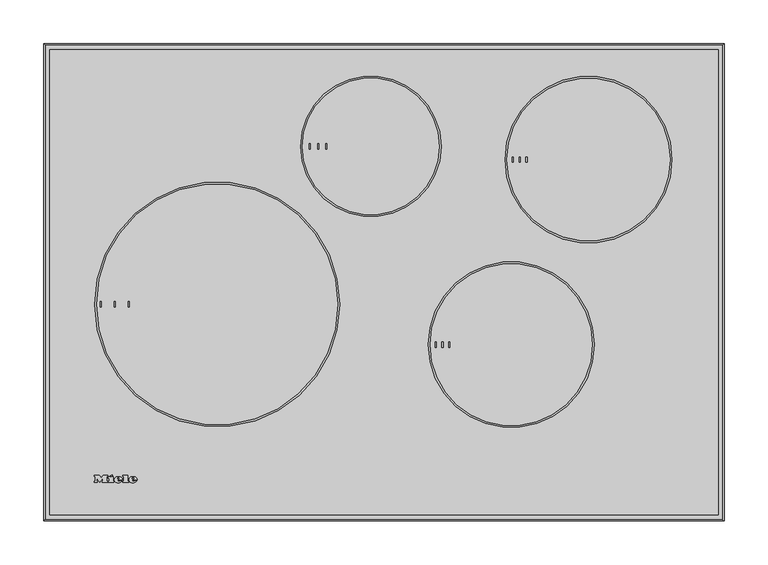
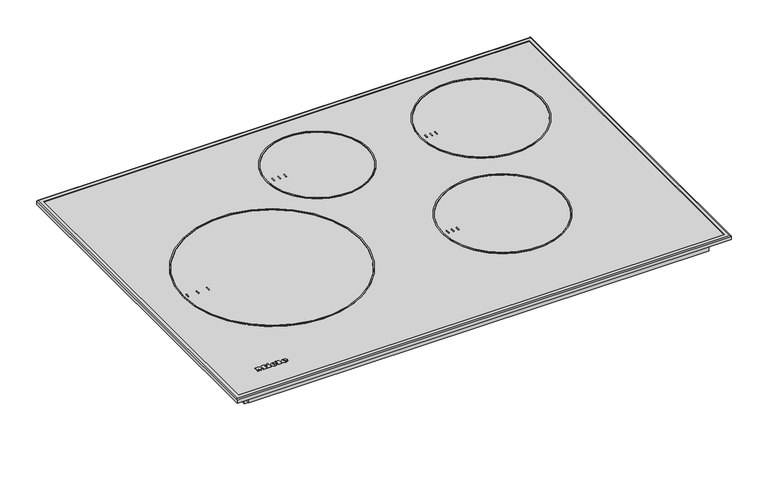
"""IFC4 building model written with IfcOpenShell, lengths in millimetres: proxy geometry, 12074200_USA_KM7730FR : 26773000_USA_12074200_KM7730FR."""

from ifc_helpers import new_model, si_unit, point, frame, frame_2d, origin, origin_with_axes, place, context, project, spatial, polyline, circle_curve, ellipse_curve, trimmed, segment, composite_curve, outline, extrude, source, transform, mapped, element, save
from ifc_brep_helpers import plane_surface, cylinder_surface, revolved_surface, extruded_surface, advanced_brep


def specialty_equipment_73e40a91(model_context):
    return source(origin(), model_context, "Body", "SolidModel", [
        extrude(outline(polyline([(231.5, 507.967223), (231.5, 412.967223), (327.5, 412.967223), (327.5, 84.0082872), (-327.5, 84.0082872), (-327.5, 507.967223), (231.5, 507.967223)])), frame((0.0, 0.0, -73.0), z_axis=(0.0, 0.0, 1.0), x_axis=(1.0, 0.0, 0.0)), (0.0, 0.0, 1.0), 55.0),
        extrude(outline(polyline([(360.5, 529.5), (360.5, 14.5), (-360.5, 14.5), (-360.5, 529.5), (360.5, 529.5)])), frame((0.0, 0.0, -18.0), z_axis=(0.0, 0.0, 1.0), x_axis=(1.0, 0.0, 0.0)), (0.0, 0.0, 1.0), 18.0),
        extrude(outline(polyline([(384.5, 541.0003766), (384.5, 2.9996234), (-384.5, 2.9996234), (-384.5, 541.0003766), (384.5, 541.0003766)])), origin_with_axes(), (0.0, 0.0, 1.0), 5.5),
        advanced_brep(
        [(386.100005, 542.600005, 5.6145786), (386.100005, 542.600005, 0.0), (386.100005, 1.399995, 0.0), (386.100005, 1.399995, 5.6145786), (380.546384, 537.046384, 7.0), (380.546384, 537.046384, 5.6145786), (380.546384, 6.953616, 5.6145786), (380.546384, 6.953616, 7.0), (387.5, 544.0, 5.5), (386.0, 542.5, 7.0), (386.0, 1.5, 7.0), (387.5, 0.0, 5.5), (387.5, 544.0, 0.0), (387.5, 0.0, 0.0), (-386.100005, 1.399995, 0.0), (-386.100005, 1.399995, 5.6145786), (-380.546384, 6.953616, 5.6145786), (-380.546384, 6.953616, 7.0), (-386.0, 1.5, 7.0), (-387.5, 0.0, 5.5), (-387.5, 0.0, 0.0), (-386.100005, 542.600005, 0.0), (-386.100005, 542.600005, 5.6145786), (-380.546384, 537.046384, 5.6145786), (-380.546384, 537.046384, 7.0), (-386.0, 542.5, 7.0), (-387.5, 544.0, 5.5), (-387.5, 544.0, 0.0)],
        [
            (0, 1),
            (1, 2),
            (2, 3),
            (3, 0),
            (4, 5),
            (5, 6),
            (6, 7),
            (7, 4),
            (8, 9, ellipse_curve(frame((386.0, 542.5, 5.5), z_axis=(0.7071067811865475, -0.7071067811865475, 0.0), x_axis=(0.7071067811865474, 0.7071067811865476, 0.0)), 2.1213203, 1.5)),
            (9, 10),
            (10, 11, ellipse_curve(frame((386.0, 1.5, 5.5), z_axis=(0.7071067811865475, 0.7071067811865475, 0.0), x_axis=(-0.7071067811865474, 0.7071067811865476, 0.0)), 2.1213203, 1.5)),
            (11, 8),
            (12, 8),
            (11, 13),
            (13, 12),
            (2, 14),
            (14, 15),
            (15, 3),
            (6, 16),
            (16, 17),
            (17, 7),
            (10, 18),
            (18, 19, ellipse_curve(frame((-386.0, 1.5, 5.5), z_axis=(0.7071067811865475, -0.7071067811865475, 0.0), x_axis=(0.7071067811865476, 0.7071067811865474, 0.0)), 2.1213203, 1.5)),
            (19, 11),
            (19, 20),
            (20, 13),
            (14, 21),
            (21, 22),
            (22, 15),
            (16, 23),
            (23, 24),
            (24, 17),
            (18, 25),
            (25, 26, ellipse_curve(frame((-386.0, 542.5, 5.5), z_axis=(-0.7071067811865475, -0.7071067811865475, 0.0), x_axis=(0.7071067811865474, -0.7071067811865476, 0.0)), 2.1213203, 1.5)),
            (26, 19),
            (26, 27),
            (27, 20),
            (21, 1),
            (0, 22),
            (5, 23),
            (4, 24),
            (9, 25),
            (8, 26),
            (12, 27),
        ],
        [
            plane_surface(frame((386.100005, 542.600005, 0.0), z_axis=(-1.0, 0.0, 0.0), x_axis=(0.0, -1.0, 0.0))),
            plane_surface(frame((380.546384, 537.046384, 5.6145786), z_axis=(-1.0, 0.0, 0.0), x_axis=(0.0, -1.0, 0.0))),
            cylinder_surface(frame((386.0, 544.0, 5.5), z_axis=(0.0, 1.0, 0.0), x_axis=(1.0, 0.0, 0.0)), 1.5),
            plane_surface(frame((387.5, 544.0, 5.5), z_axis=(1.0, 0.0, 0.0), x_axis=(0.0, -1.0, 0.0))),
            plane_surface(frame((386.100005, 1.399995, 0.0), z_axis=(0.0, 1.0, 0.0), x_axis=(-1.0, 0.0, 0.0))),
            plane_surface(frame((380.546384, 6.953616, 5.6145786), z_axis=(0.0, 1.0, 0.0), x_axis=(-1.0, 0.0, 0.0))),
            cylinder_surface(frame((387.5, 1.5, 5.5), z_axis=(1.0, 0.0, 0.0), x_axis=(0.0, -1.0, 0.0)), 1.5),
            plane_surface(frame((387.5, 0.0, 5.5), z_axis=(0.0, -1.0, 0.0), x_axis=(-1.0, 0.0, 0.0))),
            plane_surface(frame((-386.100005, 1.399995, 0.0), z_axis=(1.0, 0.0, 0.0), x_axis=(0.0, 1.0, 0.0))),
            plane_surface(frame((-380.546384, 6.953616, 5.6145786), z_axis=(1.0, 0.0, 0.0), x_axis=(0.0, 1.0, 0.0))),
            cylinder_surface(frame((-386.0, 0.0, 5.5), z_axis=(0.0, -1.0, 0.0), x_axis=(-1.0, 0.0, 0.0)), 1.5),
            plane_surface(frame((-387.5, 0.0, 5.5), z_axis=(-1.0, 0.0, 0.0), x_axis=(0.0, 1.0, 0.0))),
            plane_surface(frame((-386.100005, 542.600005, 0.0), z_axis=(0.0, -1.0, 0.0), x_axis=(1.0, 0.0, 0.0))),
            plane_surface(frame((-386.100005, 542.600005, 5.6145786), z_axis=(0.0, 0.0, -1.0), x_axis=(1.0, 0.0, 0.0))),
            plane_surface(frame((-380.546384, 537.046384, 5.6145786), z_axis=(0.0, -1.0, 0.0), x_axis=(1.0, 0.0, 0.0))),
            plane_surface(frame((-380.546384, 537.046384, 7.0), z_axis=(0.0, 0.0, 1.0), x_axis=(1.0, 0.0, 0.0))),
            cylinder_surface(frame((-387.5, 542.5, 5.5), z_axis=(-1.0, 0.0, 0.0), x_axis=(0.0, 1.0, 0.0)), 1.5),
            plane_surface(frame((-387.5, 544.0, 5.5), z_axis=(0.0, 1.0, 0.0), x_axis=(1.0, 0.0, 0.0))),
            plane_surface(frame((-387.5, 544.0, 0.0), z_axis=(0.0, 0.0, -1.0), x_axis=(1.0, 0.0, 0.0))),
        ],
        [
            (0, [[1, 2, 3, 4]]),
            (1, [[5, 6, 7, 8]]),
            (2, [[9, 10, 11, 12]]),
            (3, [[13, -12, 14, 15]]),
            (4, [[-3, 16, 17, 18]]),
            (5, [[-7, 19, 20, 21]]),
            (6, [[-11, 22, 23, 24]]),
            (7, [[-14, -24, 25, 26]]),
            (8, [[-17, 27, 28, 29]]),
            (9, [[-20, 30, 31, 32]]),
            (10, [[-23, 33, 34, 35]]),
            (11, [[-25, -35, 36, 37]]),
            (12, [[-28, 38, -1, 39]]),
            (13, [[-18, -29, -39, -4], [40, -30, -19, -6]]),
            (14, [[-31, -40, -5, 41]]),
            (15, [[42, -33, -22, -10], [-21, -32, -41, -8]]),
            (16, [[-34, -42, -9, 43]]),
            (17, [[-36, -43, -13, 44]]),
            (18, [[-26, -37, -44, -15], [-38, -27, -16, -2]]),
        ],
    ),
        extrude(outline(polyline([(-83.8554994, 430.0403703), (-83.8554994, 424.0022473), (-85.064961, 424.0022473), (-85.064961, 430.0403703), (-83.8554994, 430.0403703)])), frame((0.0, 0.0, 5.5), z_axis=(0.0, 0.0, 1.0), x_axis=(1.0, 0.0, 0.0)), (0.0, 0.0, 1.0), 1.0),
        extrude(outline(polyline([(-74.4324316, 423.9941519), (-75.6349162, 423.9941519), (-75.6349162, 429.9999487), (-74.4324316, 429.9999487), (-74.4324316, 423.9941519)])), frame((0.0, 0.0, 5.5), z_axis=(0.0, 0.0, 1.0), x_axis=(1.0, 0.0, 0.0)), (0.0, 0.0, 1.0), 1.0),
        extrude(outline(polyline([(-64.9761209, 423.9957714), (-66.2000027, 423.9957714), (-66.2000027, 429.9663298), (-64.9761209, 429.9663298), (-64.9761209, 423.9957714)])), frame((0.0, 0.0, 5.5), z_axis=(0.0, 0.0, 1.0), x_axis=(1.0, 0.0, 0.0)), (0.0, 0.0, 1.0), 1.0),
        extrude(outline(polyline([(147.4713814, 415.0466609), (147.4713814, 409.0085379), (146.2619198, 409.0085379), (146.2619198, 415.0466609), (147.4713814, 415.0466609)])), frame((0.0, 0.0, 5.5), z_axis=(0.0, 0.0, 1.0), x_axis=(1.0, 0.0, 0.0)), (0.0, 0.0, 1.0), 1.0),
        extrude(outline(polyline([(155.2435577, 409.0004425), (154.0410731, 409.0004425), (154.0410731, 415.0062393), (155.2435577, 415.0062393), (155.2435577, 409.0004425)])), frame((0.0, 0.0, 5.5), z_axis=(0.0, 0.0, 1.0), x_axis=(1.0, 0.0, 0.0)), (0.0, 0.0, 1.0), 1.0),
        extrude(outline(polyline([(163.0021255, 409.0358272), (161.7782437, 409.0358272), (161.7782437, 415.0063856), (163.0021255, 415.0063856), (163.0021255, 409.0358272)])), frame((0.0, 0.0, 5.5), z_axis=(0.0, 0.0, 1.0), x_axis=(1.0, 0.0, 0.0)), (0.0, 0.0, 1.0), 1.0),
        extrude(outline(polyline([(59.4580298, 203.998496), (59.4580298, 197.960373), (58.2485682, 197.960373), (58.2485682, 203.998496), (59.4580298, 203.998496)])), frame((0.0, 0.0, 5.5), z_axis=(0.0, 0.0, 1.0), x_axis=(1.0, 0.0, 0.0)), (0.0, 0.0, 1.0), 1.0),
        extrude(outline(polyline([(67.2302061, 197.9522776), (66.0277215, 197.9522776), (66.0277215, 203.9580744), (67.2302061, 203.9580744), (67.2302061, 197.9522776)])), frame((0.0, 0.0, 5.5), z_axis=(0.0, 0.0, 1.0), x_axis=(1.0, 0.0, 0.0)), (0.0, 0.0, 1.0), 1.0),
        extrude(outline(polyline([(74.9887739, 197.9876622), (73.7648921, 197.9876622), (73.7648921, 203.9582207), (74.9887739, 203.9582207), (74.9887739, 197.9876622)])), frame((0.0, 0.0, 5.5), z_axis=(0.0, 0.0, 1.0), x_axis=(1.0, 0.0, 0.0)), (0.0, 0.0, 1.0), 1.0),
        extrude(outline(polyline([(-54.6543984, 251.2597012), (-44.6087674, 251.2597012), (-44.6087674, 244.0394039), (-45.8644713, 244.0394039), (-45.8644713, 250.0039974), (-48.846768, 250.0039974), (-48.846768, 244.3533299), (-50.1024718, 244.3533299), (-50.1024718, 250.0039974), (-53.3986945, 250.0039974), (-53.3986945, 243.882441), (-54.6543984, 243.882441), (-54.6543984, 251.2597012)])), frame((0.0, 455.5664955, 0.0), z_axis=(0.0, 1.0, 0.0), x_axis=(0.0, 0.0, 1.0)), (0.0, 0.0, 1.0), 1.0),
        extrude(outline(polyline([(-54.6543984, 241.9988851), (-44.6087674, 241.9988851), (-44.6087674, 240.7431813), (-53.3986945, 240.7431813), (-53.3986945, 235.7203658), (-54.6543984, 235.7203658), (-54.6543984, 241.9988851)])), frame((0.0, 455.5664955, 0.0), z_axis=(0.0, 1.0, 0.0), x_axis=(0.0, 0.0, 1.0)), (0.0, 0.0, 1.0), 1.0),
        advanced_brep(
        [(231.5, 423.9999912, -49.6543984), (231.5, 439.9999912, -49.6543984), (253.0665043, 423.9999912, -49.6543984), (237.0665043, 439.9999912, -49.6543984), (253.0665043, 455.5664955, -49.6543984), (237.0665043, 455.5664955, -49.6543984)],
        [
            (0, 1, circle_curve(frame((231.5, 431.9999912, -49.6543984), z_axis=(-1.0, 0.0, 0.0), x_axis=(0.0, 1.0, 0.0)), 8.0)),
            (1, 0, circle_curve(frame((231.5, 431.9999912, -49.6543984), z_axis=(-1.0, 0.0, 0.0), x_axis=(0.0, 1.0, 0.0)), 8.0)),
            (0, 2),
            (2, 3, ellipse_curve(frame((245.0665043, 431.9999912, -49.6543984), z_axis=(-0.7071067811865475, -0.7071067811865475, 0.0), x_axis=(-0.7071067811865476, 0.7071067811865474, 0.0)), 11.3137085, 8.0)),
            (3, 1),
            (3, 2, ellipse_curve(frame((245.0665043, 431.9999912, -49.6543984), z_axis=(-0.7071067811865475, -0.7071067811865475, 0.0), x_axis=(-0.7071067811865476, 0.7071067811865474, 0.0)), 11.3137085, 8.0)),
            (4, 5, circle_curve(frame((245.0665043, 455.5664955, -49.6543984), z_axis=(0.0, 1.0, 0.0), x_axis=(-1.0, 0.0, 0.0)), 8.0)),
            (5, 4, circle_curve(frame((245.0665043, 455.5664955, -49.6543984), z_axis=(0.0, 1.0, 0.0), x_axis=(-1.0, 0.0, 0.0)), 8.0)),
            (2, 4),
            (5, 3),
        ],
        [
            plane_surface(frame((231.5, 435.5664955, 50.5163179), z_axis=(-1.0, 0.0, 0.0), x_axis=(0.0, 0.0, 1.0))),
            cylinder_surface(frame((231.5, 431.9999912, -49.6543984), z_axis=(-1.0, 0.0, 0.0), x_axis=(0.0, 1.0, 0.0)), 8.0),
            plane_surface(frame((241.5, 455.5664955, 50.5163179), z_axis=(0.0, 1.0, 0.0), x_axis=(0.0, 0.0, 1.0))),
            cylinder_surface(frame((245.0665043, 435.5664955, -49.6543984), z_axis=(0.0, -1.0, 0.0), x_axis=(-1.0, 0.0, 0.0)), 8.0),
        ],
        [
            (0, [[1, 2]]),
            (1, [[-1, 3, 4, 5]]),
            (1, [[-2, -5, 6, -3]]),
            (2, [[7, 8]]),
            (3, [[-4, 9, -8, 10]]),
            (3, [[-6, -10, -7, -9]]),
        ],
    ),
        extrude(outline(composite_curve([segment(trimmed(circle_curve(frame_2d((-190.0, 247.0)), 139.5), [point((-329.5, 247.0))], [point((-50.5, 247.0))], False, "CARTESIAN"), True, "CONTINUOUS"), segment(trimmed(circle_curve(frame_2d((-190.0, 247.0)), 139.5), [point((-50.5, 247.0))], [point((-329.5, 247.0))], False, "CARTESIAN"), True, "CONTINUOUS")], self_intersect=False), holes=[composite_curve([segment(trimmed(circle_curve(frame_2d((-190.0, 247.0)), 137.5), [point((-327.5, 247.0))], [point((-52.5, 247.0))], True, "CARTESIAN"), True, "CONTINUOUS"), segment(trimmed(circle_curve(frame_2d((-190.0, 247.0)), 137.5), [point((-52.5, 247.0))], [point((-327.5, 247.0))], True, "CARTESIAN"), True, "CONTINUOUS")], self_intersect=False)]), frame((0.0, 0.0, 5.5), z_axis=(0.0, 0.0, 1.0), x_axis=(1.0, 0.0, 0.0)), (0.0, 0.0, 1.0), 1.0),
        extrude(outline(polyline([(-322.2011124, 250.0014818), (-322.2011124, 244.0095642), (-323.4081956, 244.0095642), (-323.4081956, 250.0014818), (-322.2011124, 250.0014818)])), frame((0.0, 0.0, 5.5), z_axis=(0.0, 0.0, 1.0), x_axis=(1.0, 0.0, 0.0)), (0.0, 0.0, 1.0), 1.0),
        extrude(outline(polyline([(-306.0957949, 249.9906072), (-306.0957949, 243.9986896), (-307.3028781, 243.9986896), (-307.3028781, 249.9906072), (-306.0957949, 249.9906072)])), frame((0.0, 0.0, 5.5), z_axis=(0.0, 0.0, 1.0), x_axis=(1.0, 0.0, 0.0)), (0.0, 0.0, 1.0), 1.0),
        extrude(outline(polyline([(-289.9578536, 250.0123564), (-289.9578536, 243.9986896), (-291.2084353, 243.9986896), (-291.2084353, 250.0123564), (-289.9578536, 250.0123564)])), frame((0.0, 0.0, 5.5), z_axis=(0.0, 0.0, 1.0), x_axis=(1.0, 0.0, 0.0)), (0.0, 0.0, 1.0), 1.0),
        extrude(outline(composite_curve([segment(trimmed(circle_curve(frame_2d((233.0, 412.0)), 95.0), [point((138.0, 412.0))], [point((328.0, 412.0))], False, "CARTESIAN"), True, "CONTINUOUS"), segment(trimmed(circle_curve(frame_2d((233.0, 412.0)), 95.0), [point((328.0, 412.0))], [point((138.0, 412.0))], False, "CARTESIAN"), True, "CONTINUOUS")], self_intersect=False), holes=[composite_curve([segment(trimmed(circle_curve(frame_2d((233.0, 412.0)), 93.0), [point((140.0, 412.0))], [point((326.0, 412.0))], True, "CARTESIAN"), True, "CONTINUOUS"), segment(trimmed(circle_curve(frame_2d((233.0, 412.0)), 93.0), [point((326.0, 412.0))], [point((140.0, 412.0))], True, "CARTESIAN"), True, "CONTINUOUS")], self_intersect=False)]), frame((0.0, 0.0, 5.5), z_axis=(0.0, 0.0, 1.0), x_axis=(1.0, 0.0, 0.0)), (0.0, 0.0, 1.0), 1.0),
        extrude(outline(polyline([(147.45432, 415.0004117), (147.45432, 409.0031891), (146.2637756, 409.0031891), (146.2637756, 415.0004117), (147.45432, 415.0004117)])), frame((0.0, 0.0, 5.5), z_axis=(0.0, 0.0, 1.0), x_axis=(1.0, 0.0, 0.0)), (0.0, 0.0, 1.0), 1.0),
        extrude(outline(polyline([(155.243635, 415.0015472), (155.243635, 409.0031891), (154.0293514, 409.0031891), (154.0293514, 415.0015472), (155.243635, 415.0015472)])), frame((0.0, 0.0, 5.5), z_axis=(0.0, 0.0, 1.0), x_axis=(1.0, 0.0, 0.0)), (0.0, 0.0, 1.0), 1.0),
        extrude(outline(polyline([(163.0010161, 415.0002689), (163.0010161, 408.9996722), (161.8008127, 408.9996722), (161.8008127, 415.0002689), (163.0010161, 415.0002689)])), frame((0.0, 0.0, 5.5), z_axis=(0.0, 0.0, 1.0), x_axis=(1.0, 0.0, 0.0)), (0.0, 0.0, 1.0), 1.0),
        extrude(outline(composite_curve([segment(trimmed(circle_curve(frame_2d((-15.0, 427.0)), 80.0), [point((-95.0, 427.0))], [point((65.0, 427.0))], False, "CARTESIAN"), True, "CONTINUOUS"), segment(trimmed(circle_curve(frame_2d((-15.0, 427.0)), 80.0), [point((65.0, 427.0))], [point((-95.0, 427.0))], False, "CARTESIAN"), True, "CONTINUOUS")], self_intersect=False), holes=[composite_curve([segment(trimmed(circle_curve(frame_2d((-15.0, 427.0)), 78.0), [point((-93.0, 427.0))], [point((63.0, 427.0))], True, "CARTESIAN"), True, "CONTINUOUS"), segment(trimmed(circle_curve(frame_2d((-15.0, 427.0)), 78.0), [point((63.0, 427.0))], [point((-93.0, 427.0))], True, "CARTESIAN"), True, "CONTINUOUS")], self_intersect=False)]), frame((0.0, 0.0, 5.5), z_axis=(0.0, 0.0, 1.0), x_axis=(1.0, 0.0, 0.0)), (0.0, 0.0, 1.0), 1.0),
        extrude(outline(composite_curve([segment(trimmed(circle_curve(frame_2d((145.0, 201.0)), 94.5), [point((50.5, 201.0))], [point((239.5, 201.0))], False, "CARTESIAN"), True, "CONTINUOUS"), segment(trimmed(circle_curve(frame_2d((145.0, 201.0)), 94.5), [point((239.5, 201.0))], [point((50.5, 201.0))], False, "CARTESIAN"), True, "CONTINUOUS")], self_intersect=False), holes=[composite_curve([segment(trimmed(circle_curve(frame_2d((145.0, 201.0)), 92.5), [point((52.5, 201.0))], [point((237.5, 201.0))], True, "CARTESIAN"), True, "CONTINUOUS"), segment(trimmed(circle_curve(frame_2d((145.0, 201.0)), 92.5), [point((237.5, 201.0))], [point((52.5, 201.0))], True, "CARTESIAN"), True, "CONTINUOUS")], self_intersect=False)]), frame((0.0, 0.0, 5.5), z_axis=(0.0, 0.0, 1.0), x_axis=(1.0, 0.0, 0.0)), (0.0, 0.0, 1.0), 1.0),
        advanced_brep(
        [(-286.64, 45.896, 6.5), (-286.64, 46.704, 6.5), (-281.288, 46.704, 6.5), (-290.6, 46.704, 6.5), (-288.4, 44.0, 6.5), (-281.424, 45.896, 6.5), (-283.84, 45.896, 6.5), (-285.744, 45.0, 6.5), (-286.64, 47.728, 6.5), (-286.64, 48.6, 6.5), (-285.272, 48.6, 6.5), (-285.272, 47.728, 6.5), (-286.64, 45.896, 5.5), (-285.744, 45.0, 5.5), (-283.84, 45.896, 5.5), (-281.424, 45.896, 5.5), (-288.4, 44.0, 5.5), (-290.6, 46.704, 5.5), (-281.288, 46.704, 5.5), (-286.64, 46.704, 5.5), (-286.64, 47.728, 5.5), (-285.272, 47.728, 5.5), (-285.272, 48.6, 5.5), (-286.64, 48.6, 5.5)],
        [
            (0, 1),
            (1, 2),
            (2, 3, ellipse_curve(frame((-285.944, 46.704, 6.5), z_axis=(0.0, 0.0, 1.0), x_axis=(-1.0, 0.0, 0.0)), 4.656, 3.848)),
            (3, 4, circle_curve(frame((-287.5039564, 46.976, 6.5), z_axis=(0.0, 0.0, 1.0), x_axis=(0.0, -1.0, 0.0)), 3.1079688)),
            (4, 5, circle_curve(frame((-286.0372064, 49.088, 6.5), z_axis=(0.0, 0.0, 1.0), x_axis=(0.0, -1.0, 0.0)), 5.6098607)),
            (5, 6),
            (6, 7, circle_curve(frame((-285.3529412, 46.64, 6.5), z_axis=(0.0, 0.0, -1.0), x_axis=(0.0, -1.0, 0.0)), 1.6859795)),
            (7, 0, circle_curve(frame((-285.744, 45.896, 6.5), z_axis=(0.0, 0.0, -1.0), x_axis=(0.0, -1.0, 0.0)), 0.896)),
            (8, 9),
            (9, 10, circle_curve(frame((-285.956, 48.6, 6.5), z_axis=(0.0, 0.0, -1.0), x_axis=(0.0, -1.0, 0.0)), 0.684)),
            (10, 11),
            (11, 8),
            (12, 13, circle_curve(frame((-285.744, 45.896, 5.5), z_axis=(0.0, 0.0, 1.0), x_axis=(0.0, -1.0, 0.0)), 0.896)),
            (13, 14, circle_curve(frame((-285.3529412, 46.64, 5.5), z_axis=(0.0, 0.0, 1.0), x_axis=(0.0, -1.0, 0.0)), 1.6859795)),
            (14, 15),
            (15, 16, circle_curve(frame((-286.0372064, 49.088, 5.5), z_axis=(0.0, 0.0, -1.0), x_axis=(0.0, -1.0, 0.0)), 5.6098607)),
            (16, 17, circle_curve(frame((-287.5039564, 46.976, 5.5), z_axis=(0.0, 0.0, -1.0), x_axis=(0.0, -1.0, 0.0)), 3.1079688)),
            (17, 18, ellipse_curve(frame((-285.944, 46.704, 5.5), z_axis=(0.0, 0.0, -1.0), x_axis=(-1.0, 0.0, 0.0)), 4.656, 3.848)),
            (18, 19),
            (19, 12),
            (20, 21),
            (21, 22),
            (22, 23, circle_curve(frame((-285.956, 48.6, 5.5), z_axis=(0.0, 0.0, 1.0), x_axis=(0.0, -1.0, 0.0)), 0.684)),
            (23, 20),
            (0, 12),
            (19, 1),
            (18, 2),
            (5, 15),
            (14, 6),
            (17, 3),
            (13, 7),
            (16, 4),
            (8, 20),
            (23, 9),
            (22, 10),
            (21, 11),
        ],
        [
            plane_surface(frame((-286.64, 46.704, 6.5), z_axis=(0.0, 0.0, 1.0), x_axis=(0.0, 1.0, 0.0))),
            plane_surface(frame((-286.64, 46.704, 5.5), z_axis=(0.0, 0.0, -1.0), x_axis=(0.0, -1.0, 0.0))),
            plane_surface(frame((-286.64, 45.896, 6.5), z_axis=(1.0, 0.0, 0.0), x_axis=(0.0, 0.0, -1.0))),
            plane_surface(frame((-286.64, 46.704, 6.5), z_axis=(0.0, -1.0, 0.0), x_axis=(0.0, 0.0, -1.0))),
            plane_surface(frame((-281.424, 45.896, 6.5), z_axis=(0.0, 1.0, 0.0), x_axis=(0.0, 0.0, -1.0))),
            extruded_surface(trimmed(ellipse_curve(frame((-285.944, 46.704, 4.5), z_axis=(0.0, 0.0, 1.0), x_axis=(-1.0, 0.0, 0.0)), 4.656, 3.848), [point((-281.288, 46.704, 4.5))], [point((-290.6, 46.704, 4.5))], True, "CARTESIAN"), (0.0, 0.0, 1.0), 1.0),
            revolved_surface(polyline([(-285.3529412, 44.9540205, 5.5), (-285.3529412, 44.9540205, 6.5)]), (-285.3529412, 46.64, 5.5), (0.0, 0.0, -1.0)),
            revolved_surface(polyline([(-285.744, 45.0, 5.5), (-285.744, 45.0, 6.5)]), (-285.744, 45.896, 5.5), (0.0, 0.0, -1.0)),
            cylinder_surface(frame((-287.5039564, 46.976, 5.5), z_axis=(0.0, 0.0, 1.0), x_axis=(0.0, -1.0, 0.0)), 3.1079688),
            cylinder_surface(frame((-286.0372064, 49.088, 5.5), z_axis=(0.0, 0.0, 1.0), x_axis=(0.0, -1.0, 0.0)), 5.6098607),
            plane_surface(frame((-286.64, 47.728, 6.5), z_axis=(1.0, 0.0, 0.0), x_axis=(0.0, 0.0, -1.0))),
            revolved_surface(polyline([(-285.956, 47.916000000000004, 5.5), (-285.956, 47.916000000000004, 6.5)]), (-285.956, 48.6, 5.5), (0.0, 0.0, -1.0)),
            plane_surface(frame((-285.272, 48.6, 6.5), z_axis=(-1.0, 0.0, 0.0), x_axis=(0.0, 0.0, -1.0))),
            plane_surface(frame((-285.272, 47.728, 6.5), z_axis=(0.0, 1.0, 0.0), x_axis=(0.0, 0.0, -1.0))),
        ],
        [
            (0, [[1, 2, 3, 4, 5, 6, 7, 8], [9, 10, 11, 12]]),
            (1, [[13, 14, 15, 16, 17, 18, 19, 20], [21, 22, 23, 24]]),
            (2, [[-1, 25, -20, 26]]),
            (3, [[-2, -26, -19, 27]]),
            (4, [[-6, 28, -15, 29]]),
            (5, [[-3, -27, -18, 30]]),
            (6, [[-7, -29, -14, 31]]),
            (7, [[-8, -31, -13, -25]]),
            (8, [[-4, -30, -17, 32]]),
            (9, [[-5, -32, -16, -28]]),
            (10, [[-9, 33, -24, 34]]),
            (11, [[-10, -34, -23, 35]]),
            (12, [[-11, -35, -22, 36]]),
            (13, [[-12, -36, -21, -33]]),
        ],
    ),
        advanced_brep(
        [(-303.336, 45.896, 6.5), (-303.336, 46.704, 6.5), (-297.984, 46.704, 6.5), (-307.296, 46.704, 6.5), (-305.096, 44.0, 6.5), (-298.12, 45.896, 6.5), (-300.536, 45.896, 6.5), (-302.44, 45.0, 6.5), (-303.336, 47.728, 6.5), (-303.336, 48.6, 6.5), (-301.968, 48.6, 6.5), (-301.968, 47.728, 6.5), (-303.336, 45.896, 5.5), (-302.44, 45.0, 5.5), (-300.536, 45.896, 5.5), (-298.12, 45.896, 5.5), (-305.096, 44.0, 5.5), (-307.296, 46.704, 5.5), (-297.984, 46.704, 5.5), (-303.336, 46.704, 5.5), (-303.336, 47.728, 5.5), (-301.968, 47.728, 5.5), (-301.968, 48.6, 5.5), (-303.336, 48.6, 5.5)],
        [
            (0, 1),
            (1, 2),
            (2, 3, ellipse_curve(frame((-302.64, 46.704, 6.5), z_axis=(0.0, 0.0, 1.0), x_axis=(-1.0, 0.0, 0.0)), 4.656, 3.848)),
            (3, 4, circle_curve(frame((-304.1999564, 46.976, 6.5), z_axis=(0.0, 0.0, 1.0), x_axis=(0.0, -1.0, 0.0)), 3.1079688)),
            (4, 5, circle_curve(frame((-302.7332064, 49.088, 6.5), z_axis=(0.0, 0.0, 1.0), x_axis=(0.0, -1.0, 0.0)), 5.6098607)),
            (5, 6),
            (6, 7, circle_curve(frame((-302.0489412, 46.64, 6.5), z_axis=(0.0, 0.0, -1.0), x_axis=(0.0, -1.0, 0.0)), 1.6859795)),
            (7, 0, circle_curve(frame((-302.44, 45.896, 6.5), z_axis=(0.0, 0.0, -1.0), x_axis=(0.0, -1.0, 0.0)), 0.896)),
            (8, 9),
            (9, 10, circle_curve(frame((-302.652, 48.6, 6.5), z_axis=(0.0, 0.0, -1.0), x_axis=(0.0, -1.0, 0.0)), 0.684)),
            (10, 11),
            (11, 8),
            (12, 13, circle_curve(frame((-302.44, 45.896, 5.5), z_axis=(0.0, 0.0, 1.0), x_axis=(0.0, -1.0, 0.0)), 0.896)),
            (13, 14, circle_curve(frame((-302.0489412, 46.64, 5.5), z_axis=(0.0, 0.0, 1.0), x_axis=(0.0, -1.0, 0.0)), 1.6859795)),
            (14, 15),
            (15, 16, circle_curve(frame((-302.7332064, 49.088, 5.5), z_axis=(0.0, 0.0, -1.0), x_axis=(0.0, -1.0, 0.0)), 5.6098607)),
            (16, 17, circle_curve(frame((-304.1999564, 46.976, 5.5), z_axis=(0.0, 0.0, -1.0), x_axis=(0.0, -1.0, 0.0)), 3.1079688)),
            (17, 18, ellipse_curve(frame((-302.64, 46.704, 5.5), z_axis=(0.0, 0.0, -1.0), x_axis=(-1.0, 0.0, 0.0)), 4.656, 3.848)),
            (18, 19),
            (19, 12),
            (20, 21),
            (21, 22),
            (22, 23, circle_curve(frame((-302.652, 48.6, 5.5), z_axis=(0.0, 0.0, 1.0), x_axis=(0.0, -1.0, 0.0)), 0.684)),
            (23, 20),
            (0, 12),
            (19, 1),
            (18, 2),
            (5, 15),
            (14, 6),
            (17, 3),
            (13, 7),
            (16, 4),
            (8, 20),
            (23, 9),
            (22, 10),
            (21, 11),
        ],
        [
            plane_surface(frame((-303.336, 46.704, 6.5), z_axis=(0.0, 0.0, 1.0), x_axis=(0.0, 1.0, 0.0))),
            plane_surface(frame((-303.336, 46.704, 5.5), z_axis=(0.0, 0.0, -1.0), x_axis=(0.0, -1.0, 0.0))),
            plane_surface(frame((-303.336, 45.896, 6.5), z_axis=(1.0, 0.0, 0.0), x_axis=(0.0, 0.0, -1.0))),
            plane_surface(frame((-303.336, 46.704, 6.5), z_axis=(0.0, -1.0, 0.0), x_axis=(0.0, 0.0, -1.0))),
            plane_surface(frame((-298.12, 45.896, 6.5), z_axis=(0.0, 1.0, 0.0), x_axis=(0.0, 0.0, -1.0))),
            extruded_surface(trimmed(ellipse_curve(frame((-302.64, 46.704, 4.5), z_axis=(0.0, 0.0, 1.0), x_axis=(-1.0, 0.0, 0.0)), 4.656, 3.848), [point((-297.984, 46.704, 4.5))], [point((-307.296, 46.704, 4.5))], True, "CARTESIAN"), (0.0, 0.0, 1.0), 1.0),
            revolved_surface(polyline([(-302.0489412, 44.9540205, 5.5), (-302.0489412, 44.9540205, 6.5)]), (-302.0489412, 46.64, 5.5), (0.0, 0.0, -1.0)),
            revolved_surface(polyline([(-302.44, 45.0, 5.5), (-302.44, 45.0, 6.5)]), (-302.44, 45.896, 5.5), (0.0, 0.0, -1.0)),
            cylinder_surface(frame((-304.1999564, 46.976, 5.5), z_axis=(0.0, 0.0, 1.0), x_axis=(0.0, -1.0, 0.0)), 3.1079688),
            cylinder_surface(frame((-302.7332064, 49.088, 5.5), z_axis=(0.0, 0.0, 1.0), x_axis=(0.0, -1.0, 0.0)), 5.6098607),
            plane_surface(frame((-303.336, 47.728, 6.5), z_axis=(1.0, 0.0, 0.0), x_axis=(0.0, 0.0, -1.0))),
            revolved_surface(polyline([(-302.652, 47.916000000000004, 5.5), (-302.652, 47.916000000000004, 6.5)]), (-302.652, 48.6, 5.5), (0.0, 0.0, -1.0)),
            plane_surface(frame((-301.968, 48.6, 6.5), z_axis=(-1.0, 0.0, 0.0), x_axis=(0.0, 0.0, -1.0))),
            plane_surface(frame((-301.968, 47.728, 6.5), z_axis=(0.0, 1.0, 0.0), x_axis=(0.0, 0.0, -1.0))),
        ],
        [
            (0, [[1, 2, 3, 4, 5, 6, 7, 8], [9, 10, 11, 12]]),
            (1, [[13, 14, 15, 16, 17, 18, 19, 20], [21, 22, 23, 24]]),
            (2, [[-1, 25, -20, 26]]),
            (3, [[-2, -26, -19, 27]]),
            (4, [[-6, 28, -15, 29]]),
            (5, [[-3, -27, -18, 30]]),
            (6, [[-7, -29, -14, 31]]),
            (7, [[-8, -31, -13, -25]]),
            (8, [[-4, -30, -17, 32]]),
            (9, [[-5, -32, -16, -28]]),
            (10, [[-9, 33, -24, 34]]),
            (11, [[-10, -34, -23, 35]]),
            (12, [[-11, -35, -22, 36]]),
            (13, [[-12, -36, -21, -33]]),
        ],
    ),
        extrude(outline(polyline([(-312.08, 51.528), (-309.36, 52.792), (-308.76, 51.496), (-311.472, 50.232), (-312.08, 51.528)])), frame((0.0, 0.0, 5.5), z_axis=(0.0, 0.0, 1.0), x_axis=(1.0, 0.0, 0.0)), (0.0, 0.0, 1.0), 1.0),
        extrude(outline(polyline([(-314.056, 50.056), (-308.672, 50.056), (-308.672, 45.344), (-307.744, 45.344), (-307.744, 44.0), (-314.056, 44.0), (-314.056, 45.344), (-313.104, 45.344), (-313.104, 48.624), (-314.056, 48.624), (-314.056, 50.056)])), frame((0.0, 0.0, 5.5), z_axis=(0.0, 0.0, 1.0), x_axis=(1.0, 0.0, 0.0)), (0.0, 0.0, 1.0), 1.0),
        extrude(outline(polyline([(-297.536, 50.696), (-297.536, 52.0), (-292.032, 52.0), (-292.032, 45.344), (-291.048, 45.344), (-291.048, 44.0), (-297.536, 44.0), (-297.536, 45.344), (-296.576, 45.344), (-296.576, 50.696), (-297.536, 50.696)])), frame((0.0, 0.0, 5.5), z_axis=(0.0, 0.0, 1.0), x_axis=(1.0, 0.0, 0.0)), (0.0, 0.0, 1.0), 1.0),
        extrude(outline(polyline([(-330.0, 50.696), (-330.0, 52.0), (-324.424, 52.0), (-322.08, 49.0), (-319.744, 52.0), (-314.872, 52.0), (-314.872, 50.696), (-315.888, 50.696), (-315.888, 45.344), (-314.872, 45.344), (-314.872, 44.0), (-321.256, 44.0), (-321.256, 45.344), (-320.272, 45.344), (-320.272, 48.8152223), (-323.864, 44.0), (-327.44, 48.7471247), (-327.44, 45.344), (-326.48, 45.344), (-326.48, 44.0), (-330.0, 44.0), (-330.0, 45.344), (-329.032, 45.344), (-329.032, 50.696), (-330.0, 50.696)])), frame((0.0, 0.0, 5.5), z_axis=(0.0, 0.0, 1.0), x_axis=(1.0, 0.0, 0.0)), (0.0, 0.0, 1.0), 1.0),
    ])


if __name__ == "__main__":
    model = new_model("IFC4")
    model_context = context("Model", 3, world=origin())
    ifc_project = project(units=[si_unit("LENGTHUNIT", "METRE", prefix="MILLI")], contexts=[model_context])
    site = spatial("IfcSite", under=ifc_project)
    building = spatial("IfcBuilding", under=site)
    placement = place(None, origin())
    specialty_equipment_shape = specialty_equipment_73e40a91(model_context)
    element("IfcBuildingElementProxy", 1, Name="12074200_USA_KM7730FR : 26773000_USA_12074200_KM7730FR", ObjectType="12074200_USA_KM7730FR : 26773000_USA_12074200_KM7730FR", at=placement, inside=building, context=model_context, shape_type="MappedRepresentation", body=[
        mapped(specialty_equipment_shape, transform((0.0, 0.0, 0.0), x_axis=(1.0, 0.0, 0.0), y_axis=(0.0, 1.0, 0.0), z_axis=(0.0, 0.0, 1.0))),
    ])
    save(model, "model.ifc")
